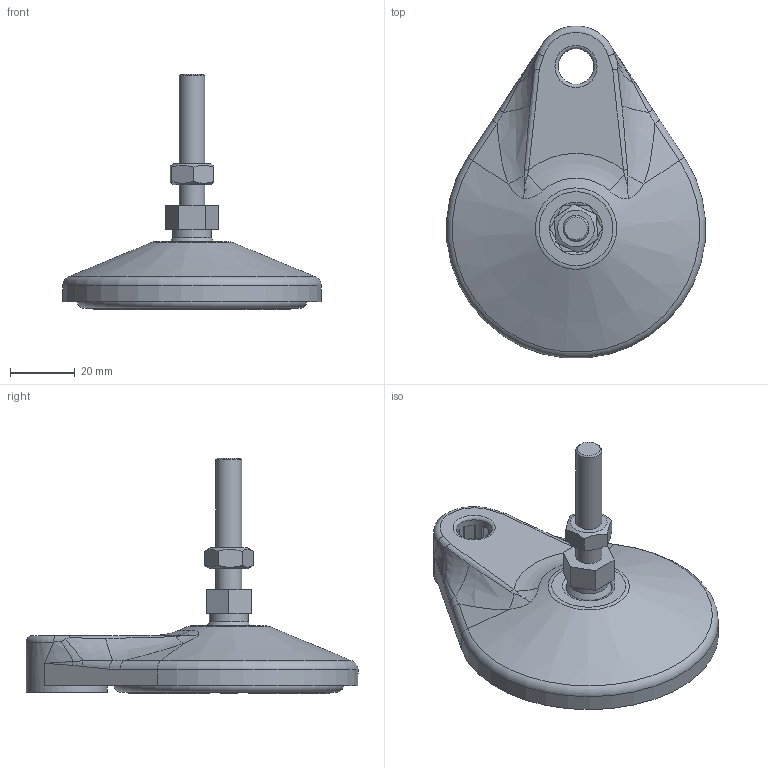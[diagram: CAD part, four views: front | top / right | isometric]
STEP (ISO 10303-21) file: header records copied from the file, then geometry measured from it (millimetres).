
FILE_DESCRIPTION(/* description */ ('Gelenkfuß M08 D 80 mit einer Befestigungsbohrung'),/* implementation_level */ '2;1');
FILE_NAME(/* name */ 'Z:\WEBSITE\DREAMWEAVER\MiniTec\Products\Leveling_Feet_Mounting_Plates_Casters\CAD\Step\21.2510 M8 Leveler With Lag Hole.stp',/* time_stamp */ '2021-04-13T14:29:29-04:00',/* author */ ('amoles'),/* organization */ (''),/* preprocessor_version */ 'ST-DEVELOPER v18',/* originating_system */ 'Autodesk Inventor 2020',/* authorisation */ '');
FILE_SCHEMA (('AUTOMOTIVE_DESIGN { 1 0 10303 214 3 1 1 }'));
Length unit declared in the file: millimetre
Products named in the file (5): 21.2510 M8 Leveler With Lag Hole; 21.2510 PLASTIC PAD; 21.2510 RUBBER PAD; 21.2510 M8 STUD; 21.1526 M8 HEX NUT
Assembly tree (4 placements, depth 2):
  21.2510 M8 Leveler With Lag Hole
    21.2510 PLASTIC PAD
    21.2510 RUBBER PAD
    21.2510 M8 STUD
    21.1526 M8 HEX NUT
Bounding box: 79.83 x 102.35 x 72.7 mm (x, y, z)
Volume: 71098.2 mm3; surface area: 33395.5 mm2
Topology: 4 solids, 4 shells, 307 faces, 1010 edges, 726 vertices
Faces by surface type: plane 153, cylinder 54, bspline 44, cone 23, sphere 17, torus 16
Full cylindrical faces by diameter (mm): 6.647 x1, 8 x1, 11 x1, 12 x1, 15 x2, 25 x1, 70.6 x1, 71 x2
Entity records: 20995 total; most frequent: CARTESIAN_POINT 11886, ORIENTED_EDGE 2006, DIRECTION 1800, EDGE_CURVE 1003, VERTEX_POINT 726, AXIS2_PLACEMENT_3D 654, LINE 492, VECTOR 492
